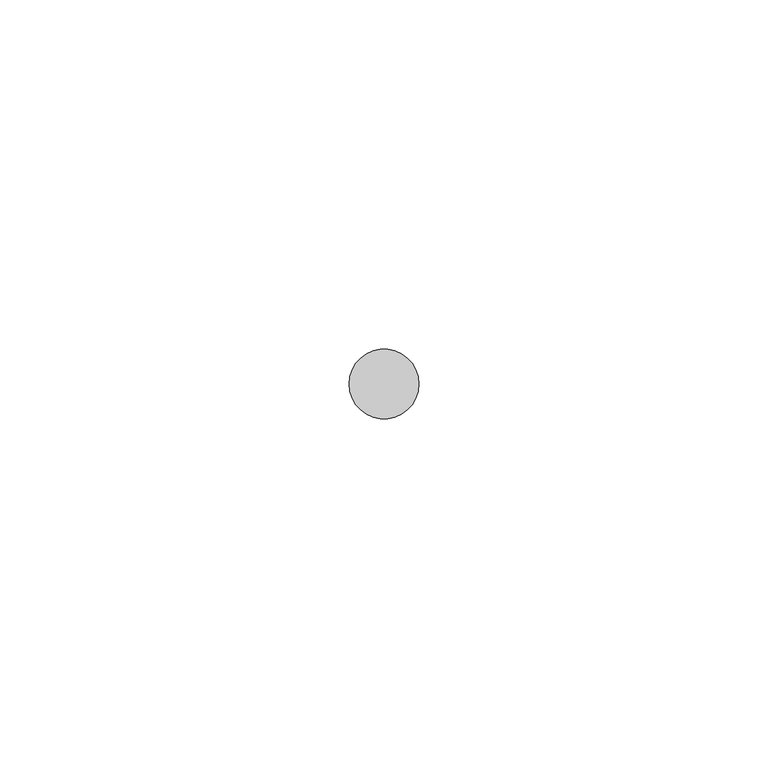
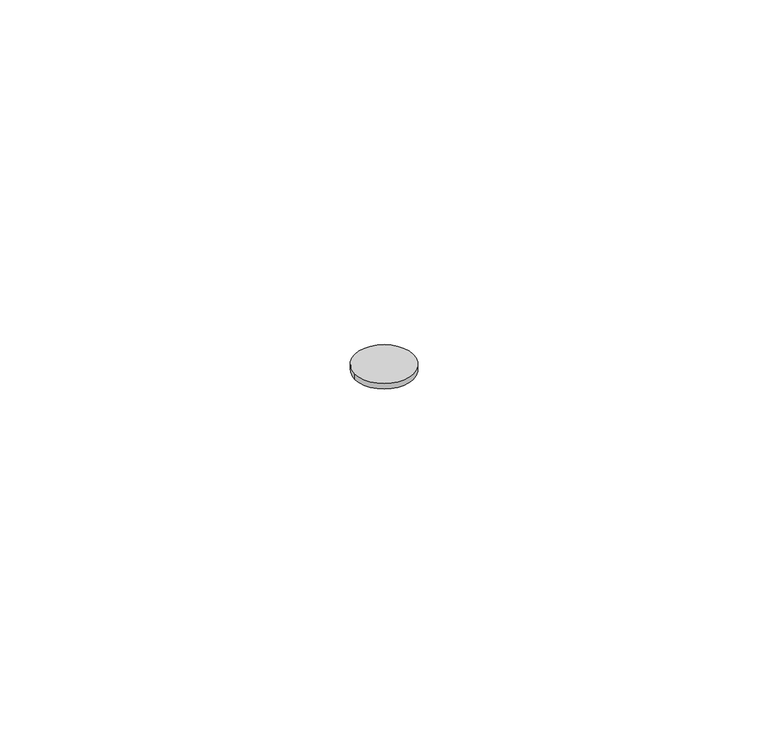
"""IFC4 building model written with IfcOpenShell, lengths in millimetres: sanitary terminal geometry, PF_ST_UN_fixed height hygienic gully D230_ACO : D230 grade 1.4301 fixed-height round hygienic gully 157 outlet 110."""

from ifc_helpers import new_model, si_unit, point, frame, origin, origin_2d, place, context, project, spatial, circle_curve, trimmed, segment, composite_curve, outline, extrude, source, transform, mapped, element, save


def sanitary_terminal_82e209ba(model_context):
    return source(origin(), model_context, "Body", "SweptSolid", [
        extrude(outline(composite_curve([segment(trimmed(circle_curve(origin_2d(), 5.0), [point((-5.0, 0.0))], [point((5.0, 0.0))], False, "CARTESIAN"), True, "CONTINUOUS"), segment(trimmed(circle_curve(origin_2d(), 5.0), [point((5.0, 0.0))], [point((-5.0, 0.0))], False, "CARTESIAN"), True, "CONTINUOUS")], self_intersect=False)), frame((0.0, 0.0, -51.0), z_axis=(0.0, 0.0, 1.0), x_axis=(1.0, 0.0, 0.0)), (0.0, 0.0, 1.0), 1.0),
    ])


if __name__ == "__main__":
    model = new_model("IFC4")
    model_context = context("Model", 3, world=origin())
    ifc_project = project(units=[si_unit("LENGTHUNIT", "METRE", prefix="MILLI")], contexts=[model_context])
    site = spatial("IfcSite", under=ifc_project)
    building = spatial("IfcBuilding", under=site)
    placement = place(None, origin())
    sanitary_terminal_shape = sanitary_terminal_82e209ba(model_context)
    element("IfcSanitaryTerminal", 1, ObjectType="PF_ST_UN_fixed height hygienic gully D230_ACO : D230 grade 1.4301 fixed-height round hygienic gully 157 outlet 110", at=placement, inside=building, context=model_context, shape_type="MappedRepresentation", body=[
        mapped(sanitary_terminal_shape, transform((0.0, 0.0, 0.0), x_axis=(1.0, 0.0, 0.0), y_axis=(0.0, 1.0, 0.0), z_axis=(0.0, 0.0, 1.0))),
    ])
    save(model, "model.ifc")
